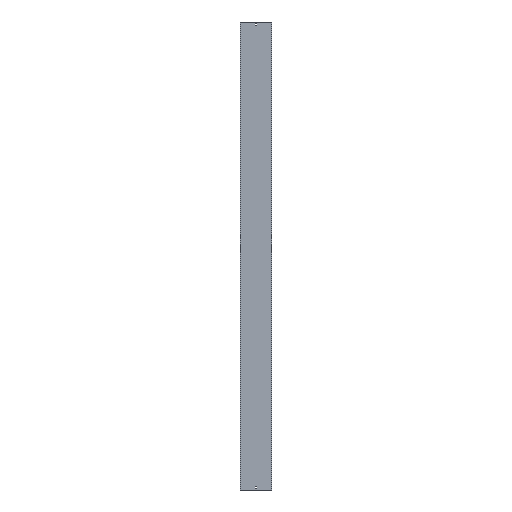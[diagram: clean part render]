
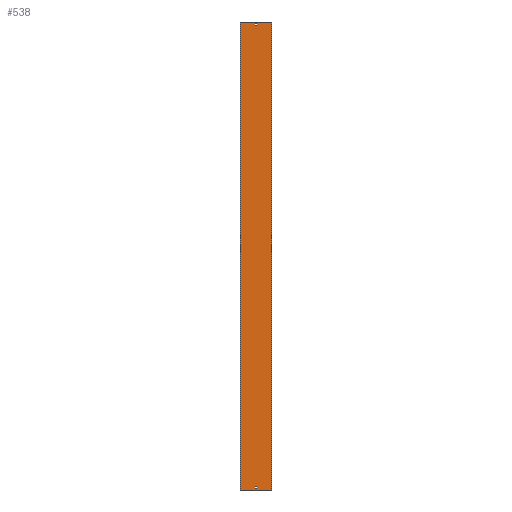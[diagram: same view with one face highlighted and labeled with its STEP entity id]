
A CAD part, front view. The second image highlights one B-rep face of the part: STEP entity #538.
In plain terms, the highlighted planar face has unit normal (0, -1, 0).
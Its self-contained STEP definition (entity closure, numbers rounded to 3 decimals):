
#23 = LINE ( 'NONE', #42, #847 ) ;
#27 = EDGE_CURVE ( 'NONE', #595, #289, #33, .T. ) ;
#30 = CARTESIAN_POINT ( 'NONE',  ( -102., 0., -1500. ) ) ;
#33 = LINE ( 'NONE', #314, #951 ) ;
#42 = CARTESIAN_POINT ( 'NONE',  ( -3.25, 0., 1479. ) ) ;
#74 = VERTEX_POINT ( 'NONE', #1582 ) ;
#81 = CARTESIAN_POINT ( 'NONE',  ( 102., 0., 1500. ) ) ;
#126 = EDGE_CURVE ( 'NONE', #605, #595, #1349, .T. ) ;
#129 = DIRECTION ( 'NONE',  ( 0., 0., -1. ) ) ;
#141 = VECTOR ( 'NONE', #931, 1000. ) ;
#190 = LINE ( 'NONE', #1472, #141 ) ;
#192 = CARTESIAN_POINT ( 'NONE',  ( 3.25, 0., 1488. ) ) ;
#255 = VERTEX_POINT ( 'NONE', #858 ) ;
#283 = EDGE_CURVE ( 'NONE', #255, #1396, #879, .T. ) ;
#285 = DIRECTION ( 'NONE',  ( 0., 1., 0. ) ) ;
#289 = VERTEX_POINT ( 'NONE', #350 ) ;
#296 = ORIENTED_EDGE ( 'NONE', *, *, #1268, .T. ) ;
#300 = DIRECTION ( 'NONE',  ( 1., 0., 0. ) ) ;
#304 = EDGE_LOOP ( 'NONE', ( #1005, #1372, #1180, #1298 ) ) ;
#314 = CARTESIAN_POINT ( 'NONE',  ( -3.25, 0., 1488. ) ) ;
#329 = EDGE_CURVE ( 'NONE', #1396, #1673, #1561, .T. ) ;
#334 = VECTOR ( 'NONE', #300, 1000. ) ;
#336 = DIRECTION ( 'NONE',  ( 0., 0., -1. ) ) ;
#346 = LINE ( 'NONE', #862, #1439 ) ;
#350 = CARTESIAN_POINT ( 'NONE',  ( -3.25, 0., 1488. ) ) ;
#414 = FACE_BOUND ( 'NONE', #598, .T. ) ;
#418 = DIRECTION ( 'NONE',  ( -1., 0., 0. ) ) ;
#442 = VECTOR ( 'NONE', #1214, 1000. ) ;
#463 = VERTEX_POINT ( 'NONE', #1452 ) ;
#465 = CARTESIAN_POINT ( 'NONE',  ( -3.25, 0., 1479. ) ) ;
#489 = LINE ( 'NONE', #1261, #744 ) ;
#490 = EDGE_CURVE ( 'NONE', #1142, #532, #1185, .T. ) ;
#497 = VECTOR ( 'NONE', #129, 1000. ) ;
#532 = VERTEX_POINT ( 'NONE', #1195 ) ;
#534 = DIRECTION ( 'NONE',  ( -1., 0., 0. ) ) ;
#535 = EDGE_CURVE ( 'NONE', #960, #605, #23, .T. ) ;
#538 = ADVANCED_FACE ( 'NONE', ( #1569, #414, #953 ), #563, .F. ) ;
#563 = PLANE ( 'NONE',  #659 ) ;
#585 = VECTOR ( 'NONE', #1643, 1000. ) ;
#595 = VERTEX_POINT ( 'NONE', #837 ) ;
#598 = EDGE_LOOP ( 'NONE', ( #1492, #791, #1047, #1411 ) ) ;
#605 = VERTEX_POINT ( 'NONE', #870 ) ;
#659 = AXIS2_PLACEMENT_3D ( 'NONE', #930, #285, #801 ) ;
#660 = VECTOR ( 'NONE', #1604, 1000. ) ;
#744 = VECTOR ( 'NONE', #1267, 1000. ) ;
#767 = VECTOR ( 'NONE', #534, 1000. ) ;
#791 = ORIENTED_EDGE ( 'NONE', *, *, #1053, .F. ) ;
#794 = LINE ( 'NONE', #1434, #767 ) ;
#801 = DIRECTION ( 'NONE',  ( -1., 0., 0. ) ) ;
#837 = CARTESIAN_POINT ( 'NONE',  ( 3.25, 0., 1488. ) ) ;
#847 = VECTOR ( 'NONE', #1056, 1000. ) ;
#858 = CARTESIAN_POINT ( 'NONE',  ( -3.25, 0., -1479. ) ) ;
#862 = CARTESIAN_POINT ( 'NONE',  ( -3.25, 0., 1488. ) ) ;
#870 = CARTESIAN_POINT ( 'NONE',  ( 3.25, 0., 1479. ) ) ;
#879 = LINE ( 'NONE', #996, #1251 ) ;
#887 = CARTESIAN_POINT ( 'NONE',  ( 3.25, 0., -1488. ) ) ;
#930 = CARTESIAN_POINT ( 'NONE',  ( -102., 0., 1500. ) ) ;
#931 = DIRECTION ( 'NONE',  ( 0., 0., -1. ) ) ;
#951 = VECTOR ( 'NONE', #418, 1000. ) ;
#953 = FACE_BOUND ( 'NONE', #1082, .T. ) ;
#960 = VERTEX_POINT ( 'NONE', #465 ) ;
#961 = EDGE_CURVE ( 'NONE', #463, #255, #1239, .T. ) ;
#992 = EDGE_CURVE ( 'NONE', #1032, #532, #1380, .T. ) ;
#996 = CARTESIAN_POINT ( 'NONE',  ( -3.25, 0., -1479. ) ) ;
#1004 = CARTESIAN_POINT ( 'NONE',  ( 3.25, 0., -1488. ) ) ;
#1005 = ORIENTED_EDGE ( 'NONE', *, *, #490, .T. ) ;
#1009 = CARTESIAN_POINT ( 'NONE',  ( -102., 0., -1500. ) ) ;
#1032 = VERTEX_POINT ( 'NONE', #81 ) ;
#1047 = ORIENTED_EDGE ( 'NONE', *, *, #27, .F. ) ;
#1053 = EDGE_CURVE ( 'NONE', #289, #960, #346, .T. ) ;
#1056 = DIRECTION ( 'NONE',  ( 1., 0., 0. ) ) ;
#1082 = EDGE_LOOP ( 'NONE', ( #1548, #1091, #1363, #296 ) ) ;
#1091 = ORIENTED_EDGE ( 'NONE', *, *, #283, .T. ) ;
#1130 = EDGE_CURVE ( 'NONE', #74, #1032, #489, .T. ) ;
#1142 = VERTEX_POINT ( 'NONE', #1009 ) ;
#1180 = ORIENTED_EDGE ( 'NONE', *, *, #1130, .F. ) ;
#1185 = LINE ( 'NONE', #30, #334 ) ;
#1195 = CARTESIAN_POINT ( 'NONE',  ( 102., 0., -1500. ) ) ;
#1196 = CARTESIAN_POINT ( 'NONE',  ( 3.25, 0., -1479. ) ) ;
#1214 = DIRECTION ( 'NONE',  ( 0., 0., 1. ) ) ;
#1239 = LINE ( 'NONE', #1371, #585 ) ;
#1251 = VECTOR ( 'NONE', #1652, 1000. ) ;
#1261 = CARTESIAN_POINT ( 'NONE',  ( -102., 0., 1500. ) ) ;
#1267 = DIRECTION ( 'NONE',  ( 1., 0., 0. ) ) ;
#1268 = EDGE_CURVE ( 'NONE', #1673, #463, #794, .T. ) ;
#1298 = ORIENTED_EDGE ( 'NONE', *, *, #1324, .T. ) ;
#1324 = EDGE_CURVE ( 'NONE', #74, #1142, #190, .T. ) ;
#1349 = LINE ( 'NONE', #192, #442 ) ;
#1363 = ORIENTED_EDGE ( 'NONE', *, *, #329, .T. ) ;
#1371 = CARTESIAN_POINT ( 'NONE',  ( -3.25, 0., -1488. ) ) ;
#1372 = ORIENTED_EDGE ( 'NONE', *, *, #992, .F. ) ;
#1380 = LINE ( 'NONE', #1503, #660 ) ;
#1396 = VERTEX_POINT ( 'NONE', #1196 ) ;
#1411 = ORIENTED_EDGE ( 'NONE', *, *, #126, .F. ) ;
#1434 = CARTESIAN_POINT ( 'NONE',  ( -3.25, 0., -1488. ) ) ;
#1439 = VECTOR ( 'NONE', #336, 1000. ) ;
#1452 = CARTESIAN_POINT ( 'NONE',  ( -3.25, 0., -1488. ) ) ;
#1472 = CARTESIAN_POINT ( 'NONE',  ( -102., 0., 1500. ) ) ;
#1492 = ORIENTED_EDGE ( 'NONE', *, *, #535, .F. ) ;
#1503 = CARTESIAN_POINT ( 'NONE',  ( 102., 0., 1500. ) ) ;
#1548 = ORIENTED_EDGE ( 'NONE', *, *, #961, .T. ) ;
#1561 = LINE ( 'NONE', #887, #497 ) ;
#1569 = FACE_OUTER_BOUND ( 'NONE', #304, .T. ) ;
#1582 = CARTESIAN_POINT ( 'NONE',  ( -102., 0., 1500. ) ) ;
#1604 = DIRECTION ( 'NONE',  ( 0., 0., -1. ) ) ;
#1643 = DIRECTION ( 'NONE',  ( 0., 0., 1. ) ) ;
#1652 = DIRECTION ( 'NONE',  ( 1., 0., 0. ) ) ;
#1673 = VERTEX_POINT ( 'NONE', #1004 ) ;
